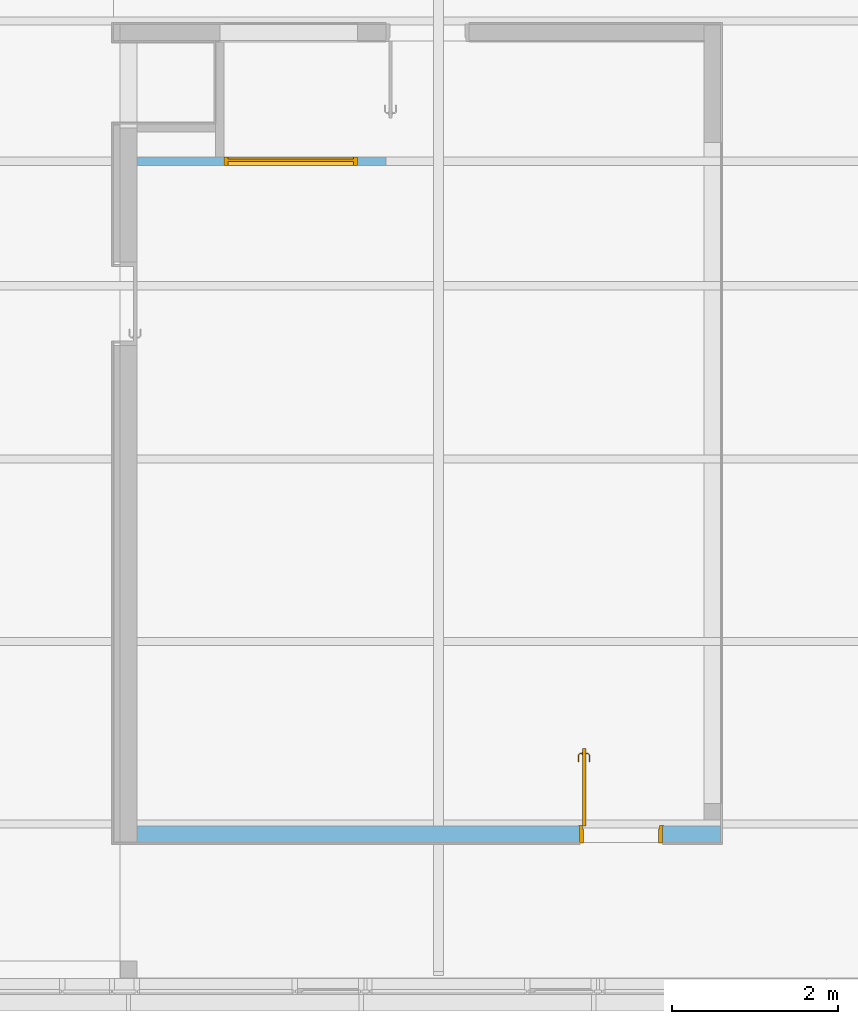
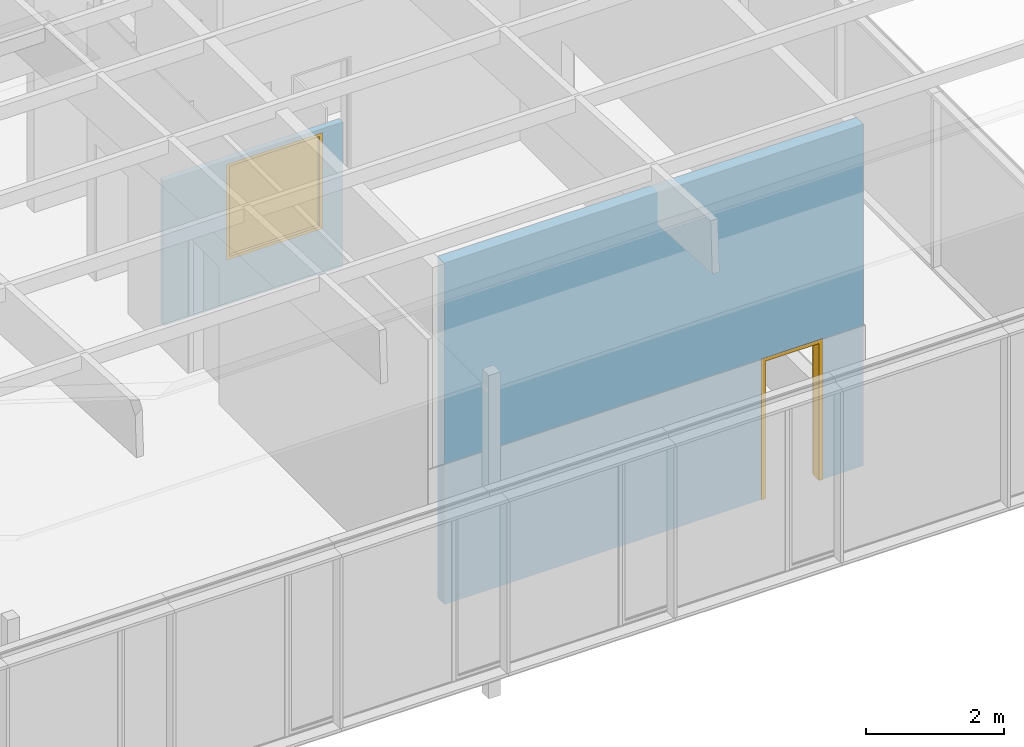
# One storey, part 189 of 240: 1 door, 1 window, 2 openings, plus 2 elements that do not belong to this part.
"""IFC2X3 building model written with IfcOpenShell, lengths in centimetres."""

from ifc_helpers import new_model, entity, si_unit, converted_unit, derived_unit, direction, frame, frame_2d, origin, place, context, subcontext, project, spatial, rectangle, extrude, faceted_brep, source, transform, mapped, material, material_list, layer, layer_set, layer_usage, type_object, type_shapes, element, fill, save


model = new_model("IFC2X3")

# Units and contexts
model_context = context("Model", 3, precision=0.001, world=origin(), true_north=direction((6.12303176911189e-17, 1.0)))
body_context = subcontext(model_context, "Body", "Model", "MODEL_VIEW")
ifc_project = project(units=[si_unit("LENGTHUNIT", "METRE", prefix="CENTI"), si_unit("AREAUNIT", "SQUARE_METRE"), si_unit("VOLUMEUNIT", "CUBIC_METRE"), converted_unit("PLANEANGLEUNIT", "DEGREE", entity("IfcRatioMeasure", 0.0174532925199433), si_unit("PLANEANGLEUNIT", "RADIAN"), dimensions=[0, 0, 0, 0, 0, 0, 0]), si_unit("MASSUNIT", "GRAM", prefix="KILO"), derived_unit("MASSDENSITYUNIT", [(si_unit("MASSUNIT", "GRAM", prefix="KILO"), 1), (si_unit("LENGTHUNIT", "METRE"), -3)]), si_unit("TIMEUNIT", "SECOND"), si_unit("FREQUENCYUNIT", "HERTZ"), si_unit("THERMODYNAMICTEMPERATUREUNIT", "DEGREE_CELSIUS"), derived_unit("THERMALTRANSMITTANCEUNIT", [(si_unit("MASSUNIT", "GRAM", prefix="KILO"), 1), (si_unit("THERMODYNAMICTEMPERATUREUNIT", "KELVIN"), -1), (si_unit("TIMEUNIT", "SECOND"), -3)]), derived_unit("VOLUMETRICFLOWRATEUNIT", [(si_unit("LENGTHUNIT", "METRE"), 3), (si_unit("TIMEUNIT", "SECOND"), -1)]), si_unit("ELECTRICCURRENTUNIT", "AMPERE"), si_unit("ELECTRICVOLTAGEUNIT", "VOLT"), si_unit("POWERUNIT", "WATT"), si_unit("FORCEUNIT", "NEWTON", prefix="KILO"), si_unit("ILLUMINANCEUNIT", "LUX"), si_unit("LUMINOUSFLUXUNIT", "LUMEN"), si_unit("LUMINOUSINTENSITYUNIT", "CANDELA"), derived_unit("USERDEFINED", [(si_unit("MASSUNIT", "GRAM", prefix="KILO"), -1), (si_unit("LENGTHUNIT", "METRE"), -2), (si_unit("TIMEUNIT", "SECOND"), 3), (si_unit("LUMINOUSFLUXUNIT", "LUMEN"), 1)]), derived_unit("LINEARVELOCITYUNIT", [(si_unit("LENGTHUNIT", "METRE"), 1), (si_unit("TIMEUNIT", "SECOND"), -1)]), si_unit("PRESSUREUNIT", "PASCAL"), derived_unit("USERDEFINED", [(si_unit("LENGTHUNIT", "METRE"), -2), (si_unit("MASSUNIT", "GRAM", prefix="KILO"), 1), (si_unit("TIMEUNIT", "SECOND"), -2)])], contexts=[model_context])

# Site, building, storey
site_placement = place(None, frame((-2781.94577612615, 7442.24238424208, 0.0)))
site = spatial("IfcSite", under=ifc_project, at=site_placement, Name="Default", CompositionType="ELEMENT")
building_placement = place(site_placement, origin())
building = spatial("IfcBuilding", under=site, at=building_placement, CompositionType="ELEMENT")
storey_placement = place(building_placement, origin())
storey = spatial("IfcBuildingStorey", under=building, at=storey_placement, Name="N00 - COO", CompositionType="ELEMENT", Elevation=0.0)

# Wall, opening, door
ifc_material_1 = material(Name="01 - Maçonnerie")
ifc_layer_1 = layer(ifc_material_1, 20.0)
ifc_layer_set_1 = layer_set([ifc_layer_1], Name="Mur de base:04 - Structure - béton - 20cm")
ifc_layer_usage_1 = layer_usage(ifc_layer_set_1, "AXIS2", "NEGATIVE", 10.0)
wall_type_1 = type_object("IfcWallType", Name="Mur de base:04 - Structure - béton - 20cm", PredefinedType="STANDARD", material=ifc_layer_set_1)
wall_1_placement = place(building_placement, frame((-8901.98738089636, -5373.50027342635, 0.0), z_axis=(0.0, 0.0, 1.0), x_axis=(-1.0, 0.0, 0.0)))
wall_1 = element("IfcWallStandardCase", 1, at=wall_1_placement, inside=storey, type_object=wall_type_1, material=ifc_layer_usage_1, Name="Mur de base:04 - Structure - béton - 20cm", ObjectType="Mur de base:04 - Structure - béton - 20cm", context=body_context, shape_type="SweptSolid", body=[
    extrude(rectangle(XDim=703.000000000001, YDim=20.0000000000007, at=frame_2d((351.500000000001, -2.1316282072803e-14), x_axis=(-1.0, 0.0))), origin(), (0.0, 0.0, 1.0), 605.945462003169),
])
opening_1_placement = place(wall_1_placement, frame((170.0, 10.0, 0.0)))
opening_1 = element("IfcOpeningElement", 2, at=opening_1_placement, cuts=wall_1, Name="Int. Simple:PP (0.93m x 2.50m):1", ObjectType="Opening", context=body_context, shape_type="SweptSolid", body=[
    extrude(rectangle(XDim=248.500000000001, YDim=99.9999999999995, at=frame_2d((124.250000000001, 50.0), x_axis=(1.0, 0.0))), frame((0.0, 0.0, 0.0), z_axis=(0.0, -1.0, 0.0), x_axis=(0.0, 0.0, 1.0)), (0.0, 0.0, 1.0), 20.0),
])
ifc_material_2 = material(Name="Finition Peinture - Blanc satiné")
ifc_material_3 = material(Name="Bois - Panneau de porte")
ifc_material_4 = material(Name="Bois - Cadre de porte")
ifc_material_list_1 = material_list([ifc_material_2, ifc_material_3, ifc_material_4])
ifc_material_list_2 = material_list([ifc_material_2, ifc_material_3, ifc_material_4])
door_style = type_object("IfcDoorStyle", Name="PP (0.93m x 2.50m)", ConstructionType="NOTDEFINED", OperationType="SINGLE_SWING_LEFT", ParameterTakesPrecedence=False, Sizeable=False, material=ifc_material_list_2)
shared_shape_1 = source(origin(), body_context, "Body", "Brep", [
    faceted_brep([(97.0, -85.9647238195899, 86.6003983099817), (97.0, -85.0, 87.0), (97.0, -85.0, 108.0), (97.0, -85.96472381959, 108.399601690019), (97.0, -87.0, 108.535898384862), (97.0, -88.0352761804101, 108.399601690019), (97.0, -89.0, 108.0), (97.0, -89.0, 87.0), (97.0, -88.03527618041, 86.6003983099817), (97.0, -87.0, 86.464101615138), (96.5000000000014, -85.96472381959, 108.399601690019), (96.5000000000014, -85.0, 108.0), (96.5000000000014, -85.0, 87.0), (96.5000000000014, -85.9647238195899, 86.6003983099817), (96.5000000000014, -87.0, 86.464101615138), (96.5000000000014, -88.03527618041, 86.6003983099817), (96.5000000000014, -89.0, 87.0), (96.5000000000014, -89.0, 108.0), (96.5000000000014, -88.0352761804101, 108.399601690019), (96.5000000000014, -87.0, 108.535898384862)], [[[0, 1, 2, 3, 4, 5, 6, 7, 8, 9]], [[10, 11, 12, 13, 14, 15, 16, 17, 18, 19]], [[16, 15, 8, 7]], [[8, 15, 14, 9]], [[14, 13, 0, 9]], [[13, 12, 1, 0]], [[2, 1, 12, 11]], [[11, 10, 3, 2]], [[3, 10, 19, 4]], [[19, 18, 5, 4]], [[18, 17, 6, 5]], [[7, 6, 17, 16]]]),
    faceted_brep([(92.5000000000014, -85.9647238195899, 86.6003983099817), (92.5000000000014, -85.0, 87.0), (92.5000000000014, -85.0, 108.0), (92.5000000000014, -85.96472381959, 108.399601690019), (92.5000000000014, -87.0, 108.535898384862), (92.5000000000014, -88.0352761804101, 108.399601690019), (92.5000000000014, -89.0, 108.0), (92.5000000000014, -89.0, 87.0), (92.5000000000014, -88.03527618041, 86.6003983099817), (92.5000000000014, -87.0, 86.464101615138), (92.0, -85.96472381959, 108.399601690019), (92.0, -85.0, 108.0), (92.0, -85.0, 87.0), (92.0, -85.9647238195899, 86.6003983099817), (92.0, -87.0, 86.464101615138), (92.0, -88.03527618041, 86.6003983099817), (92.0, -89.0, 87.0), (92.0, -89.0, 108.0), (92.0, -88.0352761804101, 108.399601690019), (92.0, -87.0, 108.535898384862)], [[[0, 1, 2, 3, 4, 5, 6, 7, 8, 9]], [[10, 11, 12, 13, 14, 15, 16, 17, 18, 19]], [[11, 10, 3, 2]], [[3, 10, 19, 4]], [[19, 18, 5, 4]], [[18, 17, 6, 5]], [[7, 6, 17, 16]], [[16, 15, 8, 7]], [[8, 15, 14, 9]], [[14, 13, 0, 9]], [[13, 12, 1, 0]], [[2, 1, 12, 11]]]),
    faceted_brep([(97.0, -87.2025298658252, 100.778044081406), (97.0, -86.7974701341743, 100.778044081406), (97.0, -86.3999999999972, 100.699999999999), (97.0, -86.3999999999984, 99.3000000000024), (97.0, -86.7974701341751, 99.2219559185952), (97.0, -87.202529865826, 99.221955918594), (97.0, -87.6000000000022, 99.2999999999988), (97.0, -87.6000000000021, 100.7), (99.7650950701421, -87.6000000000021, 100.7), (99.6004575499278, -87.2025298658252, 100.778044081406), (101.205345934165, -85.5976414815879, 100.778044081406), (100.800286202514, -85.4298602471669, 100.778044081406), (99.4326763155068, -86.7974701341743, 100.778044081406), (99.2680387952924, -86.3999999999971, 100.7), (99.2680387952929, -86.3999999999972, 99.3000000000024), (99.4326763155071, -86.7974701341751, 99.2219559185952), (100.800286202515, -85.4298602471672, 99.2219559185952), (101.205345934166, -85.5976414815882, 99.221955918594), (99.6004575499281, -87.202529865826, 99.221955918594), (99.7650950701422, -87.6000000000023, 99.2999999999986), (101.602816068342, -85.7622790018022, 100.7), (100.402816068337, -85.2652227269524, 100.7), (100.402816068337, -85.2652227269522, 99.3000000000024), (101.602816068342, -85.7622790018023, 99.2999999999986), (101.602816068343, -76.9981359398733, 99.2999999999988), (101.205345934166, -76.9981359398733, 99.221955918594), (100.800286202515, -76.9981359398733, 99.2219559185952), (100.402816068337, -76.9981359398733, 99.3000000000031), (100.402816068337, -76.9981359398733, 100.7), (100.800286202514, -76.9981359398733, 100.778044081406), (101.205345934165, -76.9981359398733, 100.778044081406), (101.602816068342, -76.9981359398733, 100.699999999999), (101.602816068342, -81.7692302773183, 100.7), (101.00281606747, -81.2139980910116, 100.78786867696), (100.402816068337, -81.1316793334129, 100.7), (100.402816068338, -81.1316793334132, 99.3000000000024), (101.002816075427, -81.2139981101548, 99.2121313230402), (101.602816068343, -81.7692299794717, 99.2999999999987)], [[[0, 1, 2, 3, 4, 5, 6, 7]], [[8, 9, 0, 7]], [[9, 10, 11, 12, 1, 0]], [[12, 13, 2, 1]], [[3, 2, 13, 14]], [[14, 15, 4, 3]], [[15, 16, 17, 18, 5, 4]], [[18, 19, 6, 5]], [[7, 6, 19, 8]], [[20, 10, 9, 8]], [[11, 21, 13, 12]], [[14, 13, 21, 22]], [[22, 16, 15, 14]], [[17, 23, 19, 18]], [[8, 19, 23, 20]], [[24, 25, 26, 27, 28, 29, 30, 31]], [[32, 30, 33]], [[31, 30, 32]], [[10, 20, 32]], [[33, 34, 11]], [[21, 11, 34]], [[34, 29, 28]], [[30, 29, 33]], [[29, 34, 33]], [[10, 32, 33]], [[10, 33, 11]], [[22, 21, 34, 28, 27, 35]], [[35, 26, 36]], [[37, 36, 25]], [[22, 35, 16]], [[35, 27, 26]], [[24, 37, 25]], [[23, 17, 37]], [[37, 17, 36]], [[17, 16, 36]], [[16, 35, 36]], [[25, 36, 26]], [[20, 23, 37, 24, 31, 32]]]),
    faceted_brep([(92.0, -87.2025298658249, 100.778044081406), (92.0, -87.6000000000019, 100.7), (92.0, -87.6000000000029, 99.2999999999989), (92.0, -87.2025298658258, 99.221955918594), (92.0, -86.7974701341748, 99.2219559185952), (92.0, -86.399999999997, 99.3000000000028), (92.0, -86.3999999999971, 100.7), (92.0, -86.797470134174, 100.778044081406), (89.7514795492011, -86.399999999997, 99.3000000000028), (89.751479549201, -86.399999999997, 100.7), (89.5868420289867, -86.7974701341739, 100.778044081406), (88.2054812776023, -85.4161093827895, 100.778044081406), (87.8004215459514, -85.5838906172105, 100.778044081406), (89.4190607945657, -87.2025298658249, 100.778044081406), (89.2544232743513, -87.6000000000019, 100.7), (89.2544232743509, -87.6000000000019, 99.2999999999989), (89.4190607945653, -87.2025298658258, 99.221955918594), (87.8004215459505, -85.5838906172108, 99.221955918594), (88.2054812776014, -85.4161093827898, 99.2219559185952), (89.5868420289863, -86.7974701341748, 99.2219559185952), (88.6029514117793, -85.2514718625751, 99.3000000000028), (88.6029514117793, -85.2514718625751, 100.7), (87.4029514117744, -85.7485281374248, 100.7), (87.4029514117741, -85.7485281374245, 99.2999999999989), (88.6029514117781, -76.9954216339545, 99.3000000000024), (88.2054812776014, -76.9954216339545, 99.2219559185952), (87.8004215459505, -76.9954216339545, 99.221955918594), (87.4029514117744, -76.9954216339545, 99.2999999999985), (87.4029514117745, -76.9954216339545, 100.7), (87.8004215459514, -76.9954216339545, 100.778044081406), (88.2054812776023, -76.9954216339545, 100.778044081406), (88.6029514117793, -76.9954216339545, 100.7), (88.6029514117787, -81.1234479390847, 99.3000000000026), (88.6029514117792, -81.1234467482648, 100.7), (88.0029514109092, -81.2057655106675, 100.78786867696), (87.4029514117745, -81.755479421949, 100.7), (87.4029514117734, -81.75547956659, 99.2999999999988), (88.0029514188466, -81.2057654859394, 99.2121313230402)], [[[0, 1, 2, 3, 4, 5, 6, 7]], [[6, 5, 8, 9]], [[9, 10, 7, 6]], [[10, 11, 12, 13, 0, 7]], [[13, 14, 1, 0]], [[2, 1, 14, 15]], [[15, 16, 3, 2]], [[16, 17, 18, 19, 4, 3]], [[19, 8, 5, 4]], [[9, 8, 20, 21]], [[21, 11, 10, 9]], [[12, 22, 14, 13]], [[15, 14, 22, 23]], [[23, 17, 16, 15]], [[18, 20, 8, 19]], [[24, 25, 26, 27, 28, 29, 30, 31]], [[21, 20, 32, 24, 31, 33]], [[33, 30, 34]], [[35, 34, 29]], [[21, 33, 11]], [[33, 31, 30]], [[28, 35, 29]], [[22, 12, 35]], [[35, 12, 34]], [[12, 11, 34]], [[11, 33, 34]], [[29, 34, 30]], [[22, 35, 28, 27, 36, 23]], [[36, 26, 37]], [[27, 26, 36]], [[17, 23, 36]], [[37, 32, 18]], [[20, 18, 32]], [[32, 25, 24]], [[26, 25, 37]], [[25, 32, 37]], [[17, 36, 37]], [[17, 37, 18]]]),
    faceted_brep([(92.5000000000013, -93.0, 245.0), (92.5000000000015, 0.0, 245.0), (92.5000000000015, 0.0, 0.0), (92.5000000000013, -93.0, 0.0), (96.5000000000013, -93.0, 245.0), (96.5000000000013, -93.0, 0.0), (96.5000000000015, 0.0, 0.0), (96.5000000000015, 0.0, 245.0)], [[[0, 1, 2, 3]], [[4, 5, 6, 7]], [[1, 0, 4, 7]], [[2, 1, 7, 6]], [[3, 2, 6, 5]], [[0, 3, 5, 4]]]),
    faceted_brep([(0.0, 20.0, 0.0), (-1.50000000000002, 20.0, 0.0), (-1.50000000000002, 20.5000000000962, 0.0), (5.0, 20.5000000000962, 0.0), (5.0, 4.0, 0.0), (3.50000000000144, 4.0, 0.0), (3.50000000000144, -0.500000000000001, 0.0), (-1.50000000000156, -0.500000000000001, 0.0), (-1.50000000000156, 0.0, 0.0), (0.0, 0.0, 0.0), (0.0, 20.0, 248.500000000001), (100.0, 20.0, 248.500000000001), (100.0, 20.0, 0.0), (101.5, 20.0, 0.0), (101.5, 20.0, 250.0), (-1.50000000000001, 20.0, 250.0), (-1.50000000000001, 20.5000000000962, 250.0), (101.5, 20.5000000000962, 250.0), (101.5, 20.5000000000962, 0.0), (95.0, 20.5000000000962, 0.0), (95.0, 20.5000000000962, 243.5), (5.0, 20.5000000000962, 243.5), (5.0, 4.0, 243.5), (95.0, 4.0, 243.5), (95.0, 4.0, 0.0), (96.499999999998, 4.0, 0.0), (96.499999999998, 4.0, 245.0), (3.50000000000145, 4.0, 245.0), (3.50000000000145, -0.500000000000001, 245.0), (96.499999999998, -0.500000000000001, 245.0), (96.499999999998, -0.500000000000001, 0.0), (101.500000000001, -0.500000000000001, 0.0), (101.500000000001, -0.500000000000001, 250.0), (-1.50000000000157, -0.500000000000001, 250.0), (-1.50000000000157, 0.0, 250.0), (101.500000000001, 0.0, 250.0), (101.500000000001, 0.0, 0.0), (100.0, 0.0, 0.0), (100.0, 0.0, 248.500000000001), (0.0, 0.0, 248.500000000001)], [[[0, 1, 2, 3, 4, 5, 6, 7, 8, 9]], [[1, 0, 10, 11, 12, 13, 14, 15]], [[2, 1, 15, 16]], [[3, 2, 16, 17, 18, 19, 20, 21]], [[3, 21, 22, 4]], [[5, 4, 22, 23, 24, 25, 26, 27]], [[5, 27, 28, 6]], [[7, 6, 28, 29, 30, 31, 32, 33]], [[8, 7, 33, 34]], [[9, 8, 34, 35, 36, 37, 38, 39]], [[0, 9, 39, 10]], [[11, 38, 37, 12]], [[12, 37, 36, 31, 30, 25, 24, 19, 18, 13]], [[17, 14, 13, 18]], [[23, 20, 19, 24]], [[29, 26, 25, 30]], [[35, 32, 31, 36]], [[16, 15, 14, 17]], [[22, 21, 20, 23]], [[28, 27, 26, 29]], [[34, 33, 32, 35]], [[10, 39, 38, 11]]]),
])
type_shapes(door_style, [shared_shape_1])
door_placement = place(opening_1_placement, frame((-100.0, -20.0, 0.0)))
door = element("IfcDoor", 3, at=door_placement, inside=storey, type_object=door_style, material=ifc_material_list_1, Name="Int. Simple:PP (0.93m x 2.50m)", ObjectType="Int. Simple:PP (0.93m x 2.50m)", OverallHeight=248.500000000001, OverallWidth=99.9999999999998, context=body_context, shape_type="MappedRepresentation", body=[
    mapped(shared_shape_1, transform((0.0, 0.0, 0.0), scale=1.0)),
])
fill(opening_1, door)

# Wall, opening, window
ifc_material_5 = material(Name="01 - Enduit/Plâtre")
ifc_layer_2 = layer(ifc_material_5, 1.3)
ifc_material_6 = material(Name="00 - Isolant")
ifc_layer_3 = layer(ifc_material_6, 7.4)
ifc_layer_4 = layer(ifc_material_5, 1.3)
ifc_layer_set_2 = layer_set([ifc_layer_2, ifc_layer_3, ifc_layer_4], Name="Mur de base:06 - cloisons - Ba13 10cm")
ifc_layer_usage_2 = layer_usage(ifc_layer_set_2, "AXIS2", "NEGATIVE", 5.0)
wall_type_2 = type_object("IfcWallType", Name="Mur de base:06 - cloisons - Ba13 10cm", PredefinedType="STANDARD", material=ifc_layer_set_2)
wall_2_placement = place(building_placement, frame((-9304.98738089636, -4563.50027342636, 0.0), z_axis=(0.0, 0.0, 1.0), x_axis=(-1.0, 0.0, 0.0)))
wall_2 = element("IfcWallStandardCase", 4, at=wall_2_placement, inside=storey, type_object=wall_type_2, material=ifc_layer_usage_2, Name="Mur de base:06 - cloisons - Ba13 10cm", ObjectType="Mur de base:06 - cloisons - Ba13 10cm", context=body_context, shape_type="SweptSolid", body=[
    extrude(rectangle(XDim=299.999999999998, YDim=9.99999999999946, at=frame_2d((149.999999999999, 0.0), x_axis=(-1.0, 0.0))), origin(), (0.0, 0.0, 1.0), 257.0),
])
opening_2_placement = place(wall_2_placement, frame((34.0, -5.0, 80.0)))
opening_2 = element("IfcOpeningElement", 5, at=opening_2_placement, cuts=wall_2, Name="châssis intérieur vitré:châssis intérieur vitré (h=170):1", ObjectType="Opening", context=body_context, shape_type="SweptSolid", body=[
    extrude(rectangle(XDim=170.0, YDim=160.917641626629, at=frame_2d((84.9999999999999, 80.4588208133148), x_axis=(1.0, 0.0))), frame((0.0, 0.0, 0.0), z_axis=(0.0, 1.0, 0.0), x_axis=(0.0, 0.0, 1.0)), (0.0, 0.0, 1.0), 10.0),
])
ifc_material_7 = material(Name="Verre")
ifc_material_8 = material(Name="huisserie bois")
ifc_material_list_3 = material_list([ifc_material_7, ifc_material_8])
ifc_material_list_4 = material_list([ifc_material_7, ifc_material_8])
window_style = type_object("IfcWindowStyle", Name="châssis intérieur vitré (h=170)", ConstructionType="NOTDEFINED", OperationType="NOTDEFINED", ParameterTakesPrecedence=False, Sizeable=False, material=ifc_material_list_4)
shared_shape_2 = source(origin(), body_context, "Body", "Brep", [
    faceted_brep([(157.917641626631, 5.0, 167.0), (157.917641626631, 5.0, 3.0), (3.0, 5.0, 3.0), (3.0, 5.0, 167.0), (157.917641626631, 2.0, 167.0), (157.917641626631, 2.0, 3.0), (3.0, 2.0, 3.0), (3.0, 2.0, 167.0)], [[[0, 1, 2, 3]], [[1, 0, 4, 5]], [[2, 1, 5, 6]], [[3, 2, 6, 7]], [[4, 7, 6, 5]], [[0, 3, 7, 4]]]),
    faceted_brep([(157.917641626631, 2.0, 167.0), (157.917641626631, 0.0, 167.0), (157.917641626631, 0.0, 3.0), (157.917641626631, 2.0, 3.0), (155.917641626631, 0.0, 5.0), (5.0, 0.0, 5.0), (5.0, 0.0, 165.0), (155.917641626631, 0.0, 165.0), (3.0, 0.0, 167.0), (3.0, 0.0, 3.0), (3.0, 2.0, 3.0), (3.0, 2.0, 167.0), (155.917641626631, 2.0, 165.0), (5.0, 2.0, 165.0), (5.0, 2.0, 5.0), (155.917641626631, 2.0, 5.0)], [[[0, 1, 2, 3]], [[4, 5, 6, 7], [1, 8, 9, 2]], [[3, 2, 9, 10]], [[3, 10, 11, 0], [12, 13, 14, 15]], [[7, 12, 15, 4]], [[4, 15, 14, 5]], [[10, 9, 8, 11]], [[5, 14, 13, 6]], [[11, 8, 1, 0]], [[6, 13, 12, 7]]], outer=[[True], [False, True], [True], [True, False], [True], [True], [True], [True], [True], [True]]),
    faceted_brep([(155.917641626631, 5.0, 165.0), (155.917641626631, 10.0, 165.0), (155.917641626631, 10.0, 5.0), (155.917641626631, 5.0, 5.0), (160.917641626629, 10.0, 0.0), (0.0, 10.0, 0.0), (0.0, 10.0, 170.0), (160.917641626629, 10.0, 170.0), (5.0, 10.0, 165.0), (5.0, 10.0, 5.0), (5.0, 5.0, 5.0), (5.0, 5.0, 165.0), (157.917641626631, 5.0, 167.0), (3.0, 5.0, 167.0), (3.0, 5.0, 3.0), (157.917641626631, 5.0, 3.0), (157.917641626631, 0.0, 167.0), (157.917641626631, 0.0, 3.0), (3.0, 0.0, 3.0), (3.0, 0.0, 167.0), (160.917641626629, 0.0, 170.0), (0.0, 0.0, 170.0), (0.0, 0.0, 0.0), (160.917641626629, 0.0, 0.0)], [[[0, 1, 2, 3]], [[4, 5, 6, 7], [1, 8, 9, 2]], [[3, 2, 9, 10]], [[3, 10, 11, 0], [12, 13, 14, 15]], [[16, 12, 15, 17]], [[17, 15, 14, 18]], [[17, 18, 19, 16], [20, 21, 22, 23]], [[7, 20, 23, 4]], [[4, 23, 22, 5]], [[10, 9, 8, 11]], [[18, 14, 13, 19]], [[5, 22, 21, 6]], [[11, 8, 1, 0]], [[19, 13, 12, 16]], [[6, 21, 20, 7]]], outer=[[True], [True, False], [True], [False, True], [True], [True], [False, True], [True], [True], [True], [True], [True], [True], [True], [True]]),
])
type_shapes(window_style, [shared_shape_2])
window_placement = place(opening_2_placement, origin())
window = element("IfcWindow", 6, at=window_placement, inside=storey, type_object=window_style, material=ifc_material_list_3, Name="châssis intérieur vitré:châssis intérieur vitré (h=170)", ObjectType="châssis intérieur vitré:châssis intérieur vitré (h=170)", OverallHeight=170.0, OverallWidth=160.917641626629, context=body_context, shape_type="MappedRepresentation", body=[
    mapped(shared_shape_2, transform((0.0, 0.0, 0.0), scale=1.0)),
])
fill(opening_2, window)

save(model, "model.ifc")
